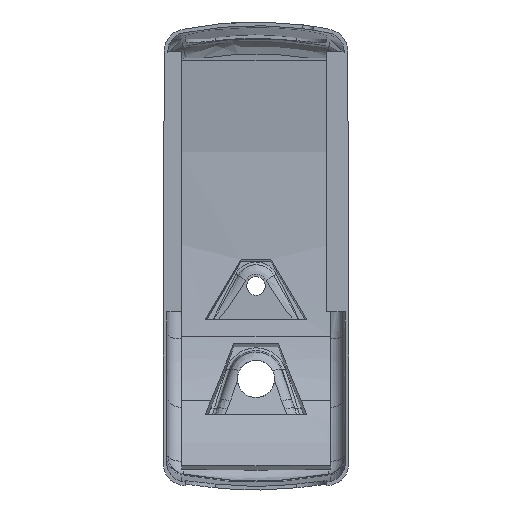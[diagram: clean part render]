
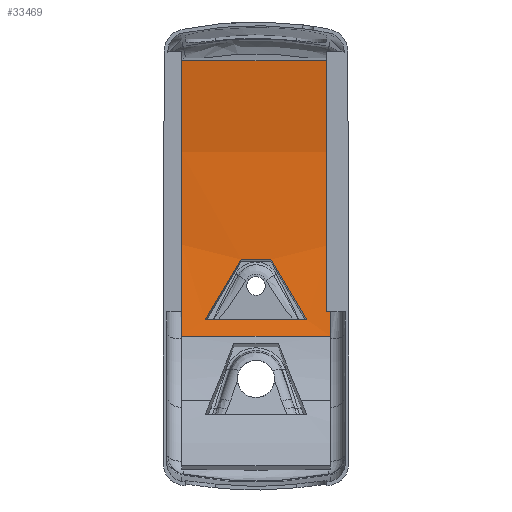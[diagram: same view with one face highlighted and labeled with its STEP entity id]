
A CAD part, front view. The second image highlights one B-rep face of the part: STEP entity #33469.
In plain terms, the highlighted cylindrical face has radius 1019.7 mm (diameter 2039.41 mm), a partial arc.
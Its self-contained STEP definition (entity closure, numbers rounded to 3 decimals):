
#382=CARTESIAN_POINT('',(-100.,-739.704,-223.851));
#383=DIRECTION('',(1.,0.,0.));
#384=DIRECTION('',(0.,0.981,-0.195));
#385=AXIS2_PLACEMENT_3D('',#382,#383,#384);
#416=DIRECTION('',(-1.,0.,0.));
#417=VECTOR('',#416,200.);
#418=CARTESIAN_POINT('',(100.,265.45,-52.208));
#419=LINE('',#418,#417);
#12048=DIRECTION('',(-1.,0.,0.));
#12049=VECTOR('',#12048,200.);
#12050=CARTESIAN_POINT('',(100.,260.479,-422.424));
#12051=LINE('',#12050,#12049);
#12052=CARTESIAN_POINT('',(100.,-739.704,-223.851));
#12053=DIRECTION('',(1.,0.,0.));
#12054=DIRECTION('',(0.,0.981,-0.195));
#12055=AXIS2_PLACEMENT_3D('',#12052,#12053,#12054);
#12057=DIRECTION('',(-1.,0.,0.));
#12058=VECTOR('',#12057,40.);
#12059=CARTESIAN_POINT('',(20.,275.497,-319.571));
#12060=LINE('',#12059,#12058);
#12061=CARTESIAN_POINT('',(-20.,275.497,-319.571));
#12062=CARTESIAN_POINT('',(-36.101,272.948,
-346.615));
#12063=CARTESIAN_POINT('',(-52.201,269.317,
-373.556));
#12064=CARTESIAN_POINT('',(-68.302,264.616,
-400.31));
#12066=DIRECTION('',(1.,0.,0.));
#12067=VECTOR('',#12066,136.603);
#12068=CARTESIAN_POINT('',(-68.302,264.616,
-400.31));
#12069=LINE('',#12068,#12067);
#12070=CARTESIAN_POINT('',(68.302,264.616,
-400.31));
#12071=CARTESIAN_POINT('',(52.201,269.317,
-373.556));
#12072=CARTESIAN_POINT('',(36.101,272.948,
-346.615));
#12073=CARTESIAN_POINT('',(20.,275.497,-319.571));
#21227=CARTESIAN_POINT('',(100.,260.479,-422.424));
#21229=VERTEX_POINT('',#21227);
#21231=CARTESIAN_POINT('',(-100.,260.479,-422.424));
#21233=VERTEX_POINT('',#21231);
#21238=CARTESIAN_POINT('',(100.,265.45,-52.208));
#21239=VERTEX_POINT('',#21238);
#21240=CARTESIAN_POINT('',(-100.,265.45,-52.208));
#21241=VERTEX_POINT('',#21240);
#21242=CARTESIAN_POINT('',(20.,275.497,-319.571));
#21243=CARTESIAN_POINT('',(-20.,275.497,-319.571));
#21244=VERTEX_POINT('',#21242);
#21245=VERTEX_POINT('',#21243);
#21246=VERTEX_POINT('',#12064);
#21247=CARTESIAN_POINT('',(68.302,264.616,
-400.31));
#21248=VERTEX_POINT('',#21247);
#33447=CARTESIAN_POINT('',(-1.,-739.704,-223.851));
#33448=DIRECTION('',(1.,0.,0.));
#33449=DIRECTION('',(0.,-0.981,0.195));
#33450=AXIS2_PLACEMENT_3D('',#33447,#33448,#33449);
#33451=CYLINDRICAL_SURFACE('',#33450,1019.704);
#33452=ORIENTED_EDGE('',*,*,#33437,.T.);
#33453=ORIENTED_EDGE('',*,*,#25145,.T.);
#33454=ORIENTED_EDGE('',*,*,#25192,.F.);
#33456=ORIENTED_EDGE('',*,*,#33455,.F.);
#33457=EDGE_LOOP('',(#33452,#33453,#33454,#33456));
#33458=FACE_OUTER_BOUND('',#33457,.F.);
#33460=ORIENTED_EDGE('',*,*,#33459,.T.);
#33462=ORIENTED_EDGE('',*,*,#33461,.T.);
#33464=ORIENTED_EDGE('',*,*,#33463,.T.);
#33466=ORIENTED_EDGE('',*,*,#33465,.T.);
#33467=EDGE_LOOP('',(#33460,#33462,#33464,#33466));
#33468=FACE_BOUND('',#33467,.F.);
#33469=ADVANCED_FACE('',(#33458,#33468),#33451,.F.);
#386=CIRCLE('',#385,1019.704);
#12056=CIRCLE('',#12055,1019.704);
#12065=B_SPLINE_CURVE_WITH_KNOTS('',3,(#12061,#12062,#12063,#12064),
.UNSPECIFIED.,.F.,.F.,(4,4),(0.,1.),.UNSPECIFIED.);
#12074=B_SPLINE_CURVE_WITH_KNOTS('',3,(#12070,#12071,#12072,#12073),
.UNSPECIFIED.,.F.,.F.,(4,4),(0.,1.),.UNSPECIFIED.);
#25145=EDGE_CURVE('',#21233,#21241,#386,.T.);
#25192=EDGE_CURVE('',#21239,#21241,#419,.T.);
#33437=EDGE_CURVE('',#21229,#21233,#12051,.T.);
#33455=EDGE_CURVE('',#21229,#21239,#12056,.T.);
#33459=EDGE_CURVE('',#21244,#21245,#12060,.T.);
#33461=EDGE_CURVE('',#21245,#21246,#12065,.T.);
#33463=EDGE_CURVE('',#21246,#21248,#12069,.T.);
#33465=EDGE_CURVE('',#21248,#21244,#12074,.T.);
